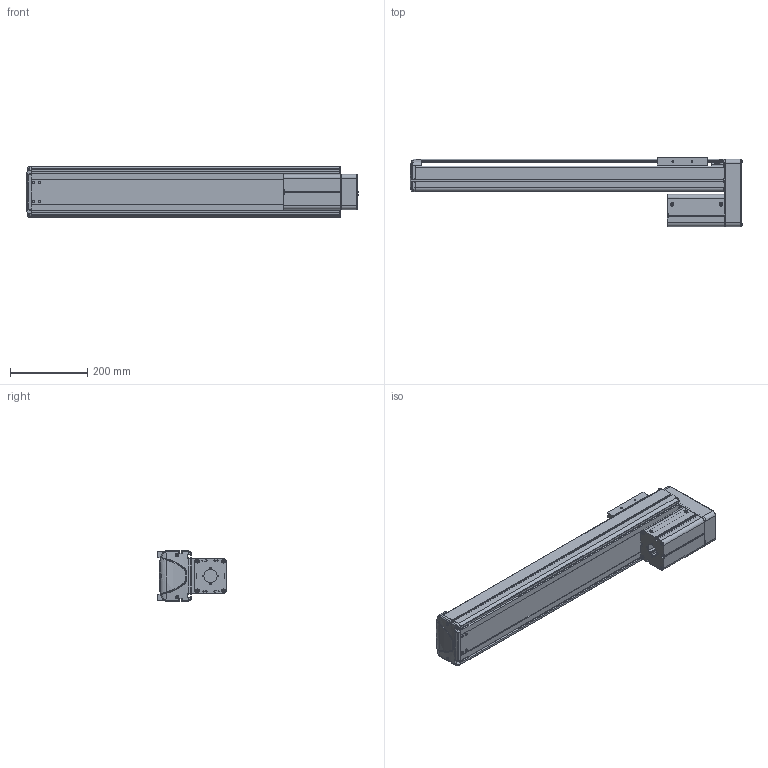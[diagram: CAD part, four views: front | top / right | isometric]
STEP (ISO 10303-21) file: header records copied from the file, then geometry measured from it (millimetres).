
FILE_DESCRIPTION((''),'2;1');
FILE_NAME('BE30E-UU-M_N-60_IGS_PRT','2017-06-17T',(' '),(''),'PRO/ENGINEER BY PARAMETRIC TECHNOLOGY CORPORATION, 2015030','PRO/ENGINEER BY PARAMETRIC TECHNOLOGY CORPORATION, 2015030','');
FILE_SCHEMA(('CONFIG_CONTROL_DESIGN'));
Length unit declared in the file: millimetre
Products named in the file (1): BE30E-UU-M_N-60_IGS_PRT
Bounding box: 861.9 x 180 x 130 mm (x, y, z)
Volume: 2925724.8 mm3; surface area: 1287472.6 mm2
Topology: 2 solids, 115 shells, 2002 faces, 5392 edges, 3500 vertices
Faces by surface type: plane 985, cylinder 819, cone 107, torus 39, bspline 28, sphere 24
Entity records: 64769 total; most frequent: CARTESIAN_POINT 13670, DIRECTION 10802, ORIENTED_EDGE 10275, EDGE_CURVE 5354, AXIS2_PLACEMENT_3D 3792, VERTEX_POINT 3500, VECTOR 3218, LINE 3218
